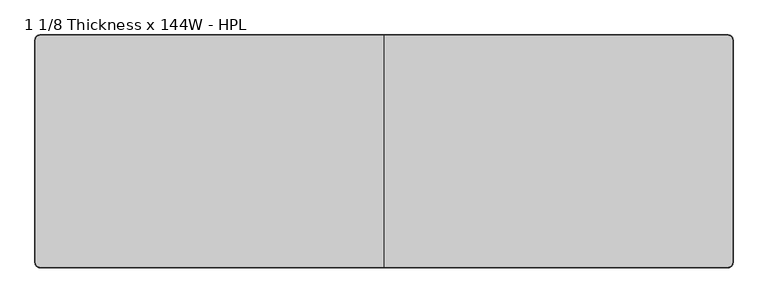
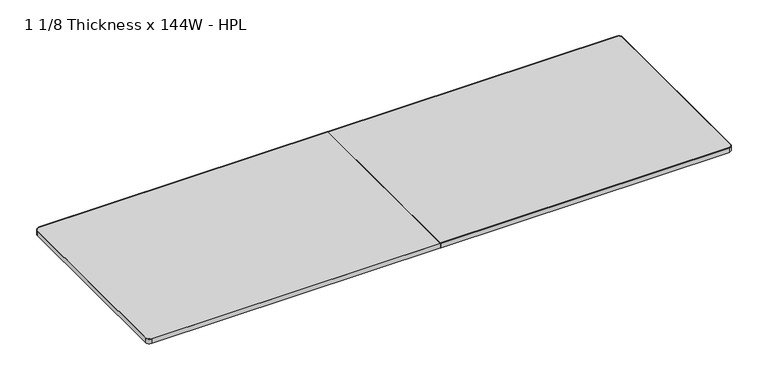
"""IFC4 building model written with IfcOpenShell, lengths in millimetres: furniture geometry, Steelcase - Groupwork - Table - Conference Table Top - Rectangular : 1 1/8 Thickness x 144W - HPL."""

from ifc_helpers import new_model, si_unit, point, frame, frame_2d, origin, place, context, project, spatial, polyline, circle_curve, trimmed, segment, composite_curve, outline, extrude, source, transform, mapped, element, save


def furniture_1_1_8_thickness_x_144w_hpl_d542ee99(model_context):
    return source(origin(), model_context, "Body", "SweptSolid", [
        extrude(outline(composite_curve([segment(trimmed(circle_curve(frame_2d((-1831.34, -583.74)), 22.86), [point((-1831.34, -606.6))], [point((-1854.2, -583.74))], False, "CARTESIAN"), True, "CONTINUOUS"), segment(polyline([(-1854.2, -583.74), (-1854.2, 583.74)]), True, "CONTINUOUS"), segment(trimmed(circle_curve(frame_2d((-1831.34, 583.74)), 22.86), [point((-1854.2, 583.74))], [point((-1831.34, 606.6))], False, "CARTESIAN"), True, "CONTINUOUS"), segment(polyline([(-1831.34, 606.6), (-29.7587236, 606.6), (-29.7587236, -606.6), (-1831.34, -606.6)]), True, "CONTINUOUS")], self_intersect=False)), frame((0.0, 0.0, 694.944), z_axis=(0.0, 0.0, 1.0), x_axis=(1.0, 0.0, 0.0)), (0.0, 0.0, 1.0), 28.956),
        extrude(outline(composite_curve([segment(trimmed(circle_curve(frame_2d((1774.54, 583.74)), 22.86), [point((1774.54, 606.6))], [point((1797.4, 583.74))], False, "CARTESIAN"), True, "CONTINUOUS"), segment(polyline([(1797.4, 583.74), (1797.4, -583.74)]), True, "CONTINUOUS"), segment(trimmed(circle_curve(frame_2d((1774.54, -583.74)), 22.86), [point((1797.4, -583.74))], [point((1774.54, -606.6))], False, "CARTESIAN"), True, "CONTINUOUS"), segment(polyline([(1774.54, -606.6), (-27.2187236, -606.6), (-27.2187236, 606.6), (1774.54, 606.6)]), True, "CONTINUOUS")], self_intersect=False)), frame((0.0, 0.0, 694.944), z_axis=(0.0, 0.0, 1.0), x_axis=(1.0, 0.0, 0.0)), (0.0, 0.0, 1.0), 28.956),
        extrude(outline(composite_curve([segment(trimmed(circle_curve(frame_2d((-1831.8, -584.2)), 25.4), [point((-1831.8, -609.6))], [point((-1857.2, -584.2))], False, "CARTESIAN"), True, "CONTINUOUS"), segment(polyline([(-1857.2, -584.2), (-1857.2, 584.2)]), True, "CONTINUOUS"), segment(trimmed(circle_curve(frame_2d((-1831.8, 584.2)), 25.4), [point((-1857.2, 584.2))], [point((-1831.8, 609.6))], False, "CARTESIAN"), True, "CONTINUOUS"), segment(polyline([(-1831.8, 609.6), (-29.7587236, 609.6), (-29.7587236, 606.6), (-1831.34, 606.6)]), True, "CONTINUOUS"), segment(trimmed(circle_curve(frame_2d((-1831.34, 583.74)), 22.86), [point((-1831.34, 606.6))], [point((-1854.2, 583.74))], True, "CARTESIAN"), True, "CONTINUOUS"), segment(polyline([(-1854.2, 583.74), (-1854.2, -583.74)]), True, "CONTINUOUS"), segment(trimmed(circle_curve(frame_2d((-1831.34, -583.74)), 22.86), [point((-1854.2, -583.74))], [point((-1831.34, -606.6))], True, "CARTESIAN"), True, "CONTINUOUS"), segment(polyline([(-1831.34, -606.6), (-29.7587236, -606.6), (-29.7587236, -609.6), (-1831.8, -609.6)]), True, "CONTINUOUS")], self_intersect=False)), frame((0.0, 0.0, 694.944), z_axis=(0.0, 0.0, 1.0), x_axis=(1.0, 0.0, 0.0)), (0.0, 0.0, 1.0), 28.956),
        extrude(outline(composite_curve([segment(trimmed(circle_curve(frame_2d((1774.9385373, 584.1385373)), 25.4614627), [point((1774.9385373, 609.6))], [point((1800.4, 584.1385373))], False, "CARTESIAN"), True, "CONTINUOUS"), segment(polyline([(1800.4, 584.1385373), (1800.4, -584.2211297)]), True, "CONTINUOUS"), segment(trimmed(circle_curve(frame_2d((1775.0211297, -584.2211297)), 25.3788703), [point((1800.4, -584.2211297))], [point((1775.0211297, -609.6))], False, "CARTESIAN"), True, "CONTINUOUS"), segment(polyline([(1775.0211297, -609.6), (-27.2187236, -609.6), (-27.2187236, -606.6), (1774.373488, -606.6)]), True, "CONTINUOUS"), segment(trimmed(circle_curve(frame_2d((1774.373488, -583.573488)), 23.026512), [point((1774.373488, -606.6))], [point((1797.4, -583.573488))], True, "CARTESIAN"), True, "CONTINUOUS"), segment(polyline([(1797.4, -583.573488), (1797.4, 583.8064662)]), True, "CONTINUOUS"), segment(trimmed(circle_curve(frame_2d((1774.6064662, 583.8064662)), 22.7935338), [point((1797.4, 583.8064662))], [point((1774.6064662, 606.6))], True, "CARTESIAN"), True, "CONTINUOUS"), segment(polyline([(1774.6064662, 606.6), (-27.2187236, 606.6), (-27.2187236, 609.6), (1774.9385373, 609.6)]), True, "CONTINUOUS")], self_intersect=False)), frame((0.0, 0.0, 694.944), z_axis=(0.0, 0.0, 1.0), x_axis=(1.0, 0.0, 0.0)), (0.0, 0.0, 1.0), 28.956),
    ])


if __name__ == "__main__":
    model = new_model("IFC4")
    model_context = context("Model", 3, world=origin())
    ifc_project = project(units=[si_unit("LENGTHUNIT", "METRE", prefix="MILLI")], contexts=[model_context])
    site = spatial("IfcSite", under=ifc_project)
    building = spatial("IfcBuilding", under=site)
    placement = place(None, origin())
    furniture_1_1_8_thickness_x_144w_hpl_shape = furniture_1_1_8_thickness_x_144w_hpl_d542ee99(model_context)
    element("IfcFurniture", 1, ObjectType="Steelcase - Groupwork - Table - Conference Table Top - Rectangular : 1 1/8 Thickness x 144W - HPL", at=placement, inside=building, context=model_context, shape_type="MappedRepresentation", body=[
        mapped(furniture_1_1_8_thickness_x_144w_hpl_shape, transform((0.0, 0.0, 0.0), x_axis=(1.0, 0.0, 0.0), y_axis=(0.0, 1.0, 0.0), z_axis=(0.0, 0.0, 1.0))),
    ])
    save(model, "model.ifc")
